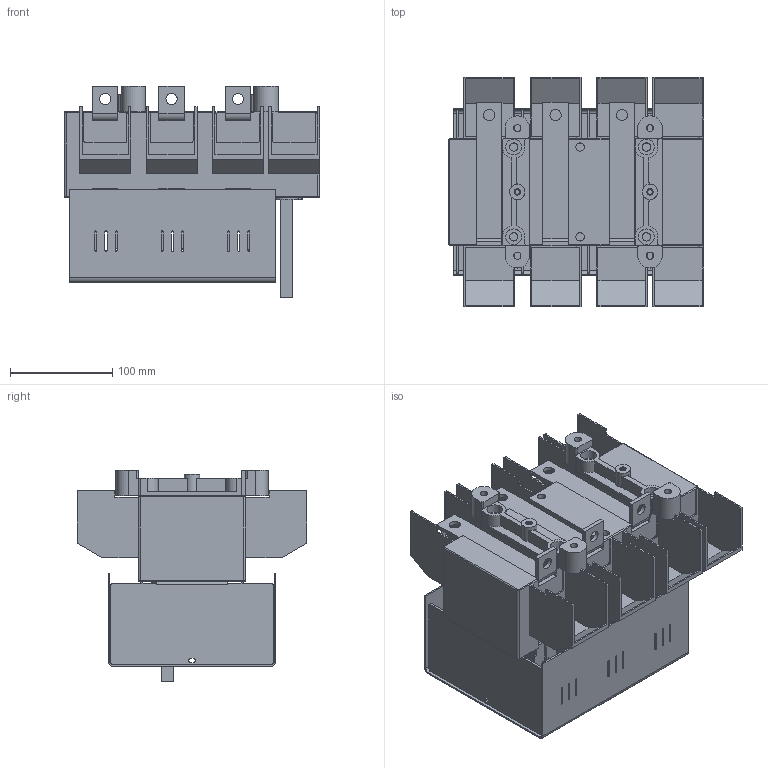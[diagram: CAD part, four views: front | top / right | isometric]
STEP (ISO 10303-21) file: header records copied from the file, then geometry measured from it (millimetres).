
FILE_DESCRIPTION(/* description */ (''),/* implementation_level */ '2;1');
FILE_NAME(/* name */ 'RAB 1 P3 A z oslona zaciskow.stp',/* time_stamp */ '2021-08-19T12:40:51+02:00',/* author */ (''),/* organization */ (''),/* preprocessor_version */ 'ST-DEVELOPER v18.1',/* originating_system */ 'SIEMENS PLM Software NX 1965',/* authorisation */ '');
FILE_SCHEMA (('AUTOMOTIVE_DESIGN { 1 0 10303 214 3 1 1 1 }'));
Length unit declared in the file: millimetre
Products named in the file (1): RAB 1 P3 A z oslona zaciskow_stp
Bounding box: 250 x 225 x 207.3 mm (x, y, z)
Volume: 2544737.8 mm3; surface area: 615081.3 mm2
Topology: 1 solids, 7 shells, 1380 faces, 3784 edges, 2460 vertices
Faces by surface type: plane 969, cylinder 403, torus 5, bspline 3
Full cylindrical faces by diameter (mm): 2.5 x4, 4.8 x2, 5.2 x18, 6.2 x2, 7 x4, 8.2 x6, 11 x6, 14 x4, 15 x2, 15.5 x4
Entity records: 43559 total; most frequent: CARTESIAN_POINT 7760, ORIENTED_EDGE 7456, DIRECTION 7304, EDGE_CURVE 3728, LINE 2884, VECTOR 2884, VERTEX_POINT 2456, AXIS2_PLACEMENT_3D 2210
